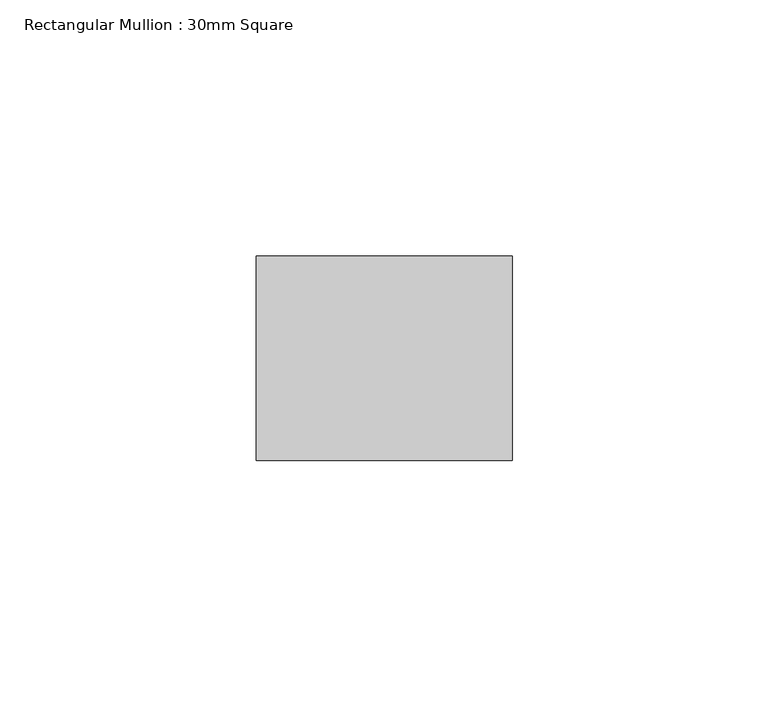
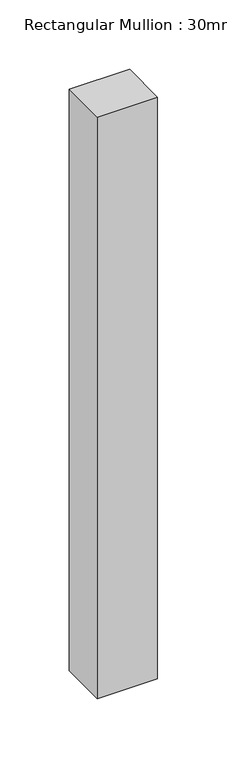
"""IFC4 building model written with IfcOpenShell, lengths in millimetres: member geometry, Rectangular Mullion : 30mm Square."""

from ifc_helpers import new_model, si_unit, frame, origin, place, context, project, spatial, polyline, outline, extrude, source, transform, mapped, element, save


def rectangular_mullion_30mm_square_5992c992(model_context):
    return source(origin(), model_context, "Body", "SweptSolid", [
        extrude(outline(polyline([(0.0, 20.0), (0.0, -20.0), (-50.0, -20.0), (-50.0, 20.0), (0.0, 20.0)])), frame((0.0, 0.0, -510.7359313), z_axis=(0.0, 0.0, 1.0), x_axis=(1.0, 0.0, 0.0)), (0.0, 0.0, 1.0), 510.7359313),
    ])


if __name__ == "__main__":
    model = new_model("IFC4")
    model_context = context("Model", 3, world=origin())
    ifc_project = project(units=[si_unit("LENGTHUNIT", "METRE", prefix="MILLI")], contexts=[model_context])
    site = spatial("IfcSite", under=ifc_project)
    building = spatial("IfcBuilding", under=site)
    placement = place(None, origin())
    rectangular_mullion_30mm_square_shape = rectangular_mullion_30mm_square_5992c992(model_context)
    element("IfcMember", 1, ObjectType="Rectangular Mullion : 30mm Square", at=placement, inside=building, context=model_context, shape_type="MappedRepresentation", body=[
        mapped(rectangular_mullion_30mm_square_shape, transform((0.0, 0.0, 0.0), x_axis=(1.0, 0.0, 0.0), y_axis=(0.0, 1.0, 0.0), z_axis=(0.0, 0.0, 1.0))),
    ])
    save(model, "model.ifc")
